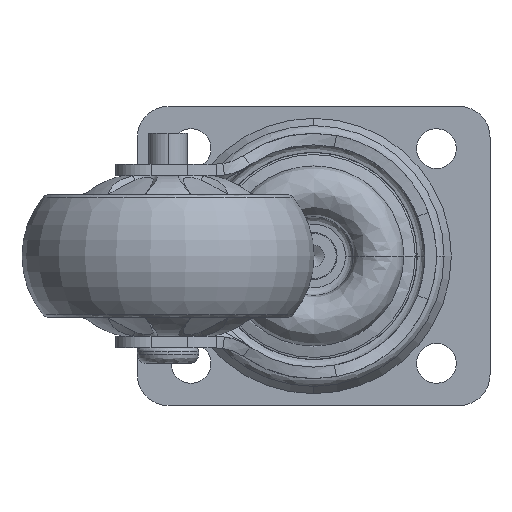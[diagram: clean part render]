
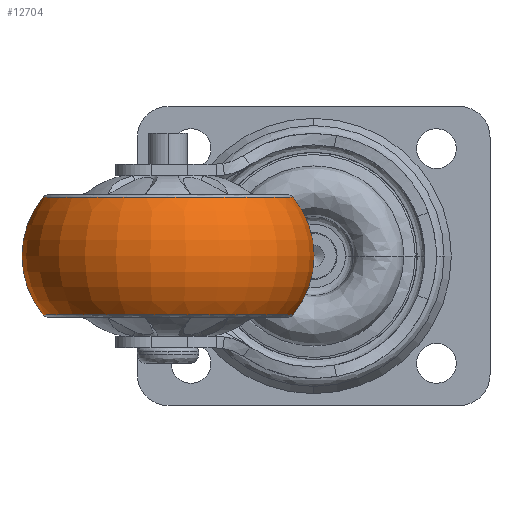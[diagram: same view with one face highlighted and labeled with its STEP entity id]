
A CAD part, front view. The second image highlights one B-rep face of the part: STEP entity #12704.
In plain terms, the highlighted toroidal (fillet/blend) face has major radius 7.05 mm and minor radius 12 mm.
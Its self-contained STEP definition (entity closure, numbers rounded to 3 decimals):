
#535 = DIRECTION ( 'NONE',  ( 1., 0., 0. ) ) ;
#916 = ORIENTED_EDGE ( 'NONE', *, *, #4551, .T. ) ;
#1586 = CIRCLE ( 'NONE', #26620, 16.307 ) ;
#1652 = DIRECTION ( 'NONE',  ( 0., 0., 1. ) ) ;
#1988 = AXIS2_PLACEMENT_3D ( 'NONE', #35580, #23623, #21114 ) ;
#4347 = CARTESIAN_POINT ( 'NONE',  ( -19., -29.534, 7.636 ) ) ;
#4551 = EDGE_CURVE ( 'NONE', #15617, #14268, #12058, .T. ) ;
#4706 = ORIENTED_EDGE ( 'NONE', *, *, #36389, .T. ) ;
#7470 = EDGE_CURVE ( 'NONE', #34818, #35222, #37123, .T. ) ;
#7710 = AXIS2_PLACEMENT_3D ( 'NONE', #36240, #33030, #31073 ) ;
#7918 = CARTESIAN_POINT ( 'NONE',  ( -26.05, -29.534, 0. ) ) ;
#8146 = DIRECTION ( 'NONE',  ( 0., 0., -1. ) ) ;
#9431 = CIRCLE ( 'NONE', #28305, 16.307 ) ;
#9903 = ORIENTED_EDGE ( 'NONE', *, *, #30612, .T. ) ;
#10875 = CARTESIAN_POINT ( 'NONE',  ( -19., -29.534, -7.636 ) ) ;
#12058 = CIRCLE ( 'NONE', #27262, 16.307 ) ;
#12704 = ADVANCED_FACE ( 'NONE', ( #36047 ), #13243, .T. ) ;
#13132 = EDGE_CURVE ( 'NONE', #35222, #15617, #22759, .T. ) ;
#13243 = TOROIDAL_SURFACE ( 'NONE', #7710, 7.05, 12. ) ;
#13543 = DIRECTION ( 'NONE',  ( 1., 0., 0. ) ) ;
#13778 = DIRECTION ( 'NONE',  ( 0., 0., -1. ) ) ;
#14268 = VERTEX_POINT ( 'NONE', #35905 ) ;
#15271 = CARTESIAN_POINT ( 'NONE',  ( -19., -29.534, -7.636 ) ) ;
#15617 = VERTEX_POINT ( 'NONE', #19345 ) ;
#16223 = DIRECTION ( 'NONE',  ( -1., 0., 0. ) ) ;
#19345 = CARTESIAN_POINT ( 'NONE',  ( -2.693, -29.534, 7.636 ) ) ;
#19622 = CARTESIAN_POINT ( 'NONE',  ( -35.307, -29.534, 7.636 ) ) ;
#19982 = DIRECTION ( 'NONE',  ( -1., 0., 0. ) ) ;
#21114 = DIRECTION ( 'NONE',  ( 0., 0., -1. ) ) ;
#22112 = CIRCLE ( 'NONE', #25189, 12. ) ;
#22751 = ORIENTED_EDGE ( 'NONE', *, *, #7470, .T. ) ;
#22759 = CIRCLE ( 'NONE', #1988, 12. ) ;
#22840 = CARTESIAN_POINT ( 'NONE',  ( -19., -29.534, 7.636 ) ) ;
#23623 = DIRECTION ( 'NONE',  ( 0., -1., 0. ) ) ;
#23672 = ORIENTED_EDGE ( 'NONE', *, *, #36634, .F. ) ;
#25189 = AXIS2_PLACEMENT_3D ( 'NONE', #7918, #31172, #27965 ) ;
#25624 = AXIS2_PLACEMENT_3D ( 'NONE', #10875, #1652, #13543 ) ;
#25953 = CARTESIAN_POINT ( 'NONE',  ( -2.693, -29.534, -7.636 ) ) ;
#26066 = VERTEX_POINT ( 'NONE', #19622 ) ;
#26620 = AXIS2_PLACEMENT_3D ( 'NONE', #15271, #35982, #535 ) ;
#27262 = AXIS2_PLACEMENT_3D ( 'NONE', #4347, #13778, #16223 ) ;
#27965 = DIRECTION ( 'NONE',  ( -1., 0., 0. ) ) ;
#28305 = AXIS2_PLACEMENT_3D ( 'NONE', #22840, #8146, #19982 ) ;
#29715 = CARTESIAN_POINT ( 'NONE',  ( -35.307, -29.534, -7.636 ) ) ;
#30612 = EDGE_CURVE ( 'NONE', #31242, #34818, #1586, .T. ) ;
#31073 = DIRECTION ( 'NONE',  ( 1., 0., 0. ) ) ;
#31172 = DIRECTION ( 'NONE',  ( 0., 1., 0. ) ) ;
#31242 = VERTEX_POINT ( 'NONE', #29715 ) ;
#31971 = EDGE_LOOP ( 'NONE', ( #23672, #9903, #22751, #33825, #916, #4706 ) ) ;
#33030 = DIRECTION ( 'NONE',  ( 0., 0., 1. ) ) ;
#33442 = CARTESIAN_POINT ( 'NONE',  ( -35.306, -29.639, -7.636 ) ) ;
#33825 = ORIENTED_EDGE ( 'NONE', *, *, #13132, .T. ) ;
#34818 = VERTEX_POINT ( 'NONE', #33442 ) ;
#35222 = VERTEX_POINT ( 'NONE', #25953 ) ;
#35580 = CARTESIAN_POINT ( 'NONE',  ( -11.95, -29.534, 0. ) ) ;
#35905 = CARTESIAN_POINT ( 'NONE',  ( -2.693, -29.608, 7.636 ) ) ;
#35982 = DIRECTION ( 'NONE',  ( 0., 0., 1. ) ) ;
#36047 = FACE_OUTER_BOUND ( 'NONE', #31971, .T. ) ;
#36240 = CARTESIAN_POINT ( 'NONE',  ( -19., -29.534, 0. ) ) ;
#36389 = EDGE_CURVE ( 'NONE', #14268, #26066, #9431, .T. ) ;
#36634 = EDGE_CURVE ( 'NONE', #31242, #26066, #22112, .T. ) ;
#37123 = CIRCLE ( 'NONE', #25624, 16.307 ) ;
